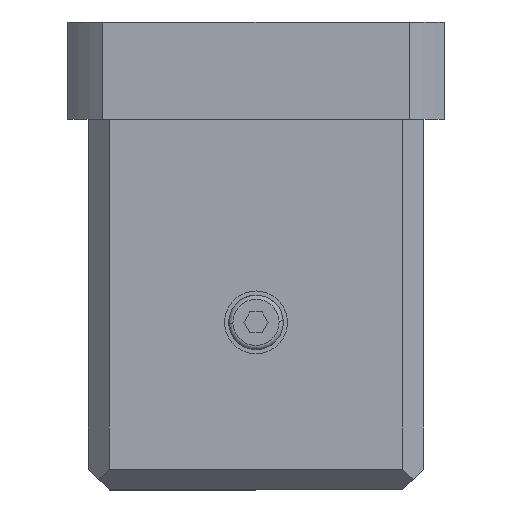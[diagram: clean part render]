
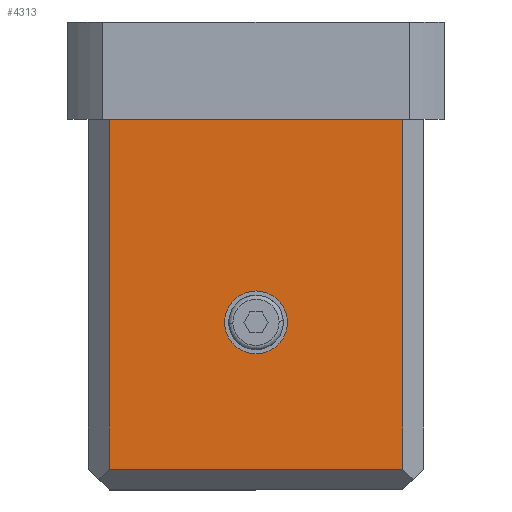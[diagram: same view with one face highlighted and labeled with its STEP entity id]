
A CAD part, left-side view. The second image highlights one B-rep face of the part: STEP entity #4313.
In plain terms, the highlighted planar face has unit normal (-1, 0, 0).
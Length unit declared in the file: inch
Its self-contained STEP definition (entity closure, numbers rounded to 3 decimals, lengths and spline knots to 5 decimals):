
#81 = EDGE_CURVE ( 'NONE', #5548, #12343, #11156, .T. ) ;
#218 = VERTEX_POINT ( 'NONE', #3201 ) ;
#522 = CARTESIAN_POINT ( 'NONE',  ( -8.62205, 0., -1.37795 ) ) ;
#737 = ORIENTED_EDGE ( 'NONE', *, *, #929, .T. ) ;
#758 = CIRCLE ( 'NONE', #8739, 0.29528 ) ;
#836 = EDGE_CURVE ( 'NONE', #10289, #12343, #7935, .T. ) ;
#929 = EDGE_CURVE ( 'NONE', #6302, #13792, #758, .T. ) ;
#1088 = EDGE_LOOP ( 'NONE', ( #737, #8496 ) ) ;
#1146 = CARTESIAN_POINT ( 'NONE',  ( -8.62205, 1.37795, -1.37795 ) ) ;
#1549 = CARTESIAN_POINT ( 'NONE',  ( -8.62205, 0., 0. ) ) ;
#1601 = ORIENTED_EDGE ( 'NONE', *, *, #836, .T. ) ;
#1849 = FACE_BOUND ( 'NONE', #1088, .T. ) ;
#2152 = ORIENTED_EDGE ( 'NONE', *, *, #10273, .F. ) ;
#2730 = DIRECTION ( 'NONE',  ( 1., 0., 0. ) ) ;
#2850 = DIRECTION ( 'NONE',  ( 0., 1., 0. ) ) ;
#2914 = DIRECTION ( 'NONE',  ( -1., 0., 0. ) ) ;
#3153 = CARTESIAN_POINT ( 'NONE',  ( -8.62205, 1.37795, 1.90551 ) ) ;
#3201 = CARTESIAN_POINT ( 'NONE',  ( -8.62205, -1.37795, -1.37795 ) ) ;
#3796 = DIRECTION ( 'NONE',  ( 1., 0., 0. ) ) ;
#4313 = ADVANCED_FACE ( 'NONE', ( #1849, #4910 ), #7403, .T. ) ;
#4385 = VECTOR ( 'NONE', #2850, 39.37008 ) ;
#4910 = FACE_OUTER_BOUND ( 'NONE', #11268, .T. ) ;
#5548 = VERTEX_POINT ( 'NONE', #1146 ) ;
#5713 = CIRCLE ( 'NONE', #9214, 0.29528 ) ;
#5749 = DIRECTION ( 'NONE',  ( 0., 0., 1. ) ) ;
#6114 = CARTESIAN_POINT ( 'NONE',  ( -8.62205, 0., 0.29528 ) ) ;
#6235 = DIRECTION ( 'NONE',  ( 0., 0., -1. ) ) ;
#6302 = VERTEX_POINT ( 'NONE', #6114 ) ;
#6992 = CARTESIAN_POINT ( 'NONE',  ( -8.62205, 0., -0.29528 ) ) ;
#7403 = PLANE ( 'NONE',  #12769 ) ;
#7444 = CARTESIAN_POINT ( 'NONE',  ( -8.62205, 0., 0. ) ) ;
#7935 = LINE ( 'NONE', #8992, #13620 ) ;
#8105 = VECTOR ( 'NONE', #6235, 39.37008 ) ;
#8140 = VECTOR ( 'NONE', #5749, 39.37008 ) ;
#8496 = ORIENTED_EDGE ( 'NONE', *, *, #13452, .T. ) ;
#8609 = EDGE_CURVE ( 'NONE', #10289, #218, #11125, .T. ) ;
#8739 = AXIS2_PLACEMENT_3D ( 'NONE', #1549, #2730, #9569 ) ;
#8992 = CARTESIAN_POINT ( 'NONE',  ( -8.62205, 0., 1.90551 ) ) ;
#9130 = ORIENTED_EDGE ( 'NONE', *, *, #8609, .F. ) ;
#9214 = AXIS2_PLACEMENT_3D ( 'NONE', #10639, #3796, #11752 ) ;
#9569 = DIRECTION ( 'NONE',  ( 0., 0., 1. ) ) ;
#10273 = EDGE_CURVE ( 'NONE', #218, #5548, #13467, .T. ) ;
#10289 = VERTEX_POINT ( 'NONE', #10730 ) ;
#10639 = CARTESIAN_POINT ( 'NONE',  ( -8.62205, 0., 0. ) ) ;
#10730 = CARTESIAN_POINT ( 'NONE',  ( -8.62205, -1.37795, 1.90551 ) ) ;
#10882 = DIRECTION ( 'NONE',  ( 0., 0., 1. ) ) ;
#11125 = LINE ( 'NONE', #11869, #8105 ) ;
#11156 = LINE ( 'NONE', #13684, #8140 ) ;
#11171 = DIRECTION ( 'NONE',  ( 0., 1., 0. ) ) ;
#11268 = EDGE_LOOP ( 'NONE', ( #9130, #1601, #13243, #2152 ) ) ;
#11752 = DIRECTION ( 'NONE',  ( 0., 0., 1. ) ) ;
#11869 = CARTESIAN_POINT ( 'NONE',  ( -8.62205, -1.37795, 0.16732 ) ) ;
#12343 = VERTEX_POINT ( 'NONE', #3153 ) ;
#12769 = AXIS2_PLACEMENT_3D ( 'NONE', #7444, #2914, #10882 ) ;
#13243 = ORIENTED_EDGE ( 'NONE', *, *, #81, .F. ) ;
#13452 = EDGE_CURVE ( 'NONE', #13792, #6302, #5713, .T. ) ;
#13467 = LINE ( 'NONE', #522, #4385 ) ;
#13620 = VECTOR ( 'NONE', #11171, 39.37008 ) ;
#13684 = CARTESIAN_POINT ( 'NONE',  ( -8.62205, 1.37795, 0.16732 ) ) ;
#13792 = VERTEX_POINT ( 'NONE', #6992 ) ;
